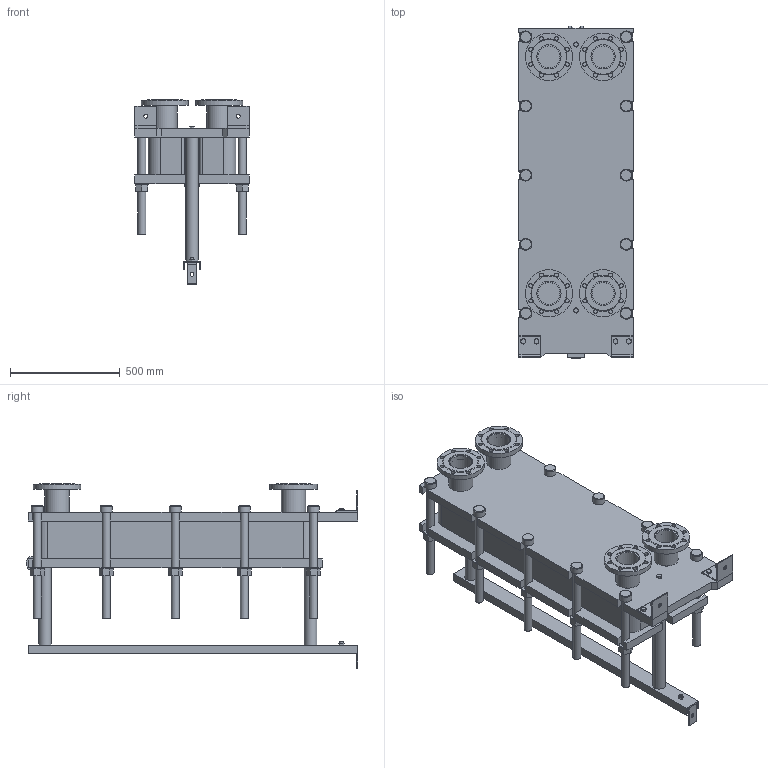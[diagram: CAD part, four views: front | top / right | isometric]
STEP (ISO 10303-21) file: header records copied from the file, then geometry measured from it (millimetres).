
FILE_DESCRIPTION(/* description */ (''),/* implementation_level */ '2;1');
FILE_NAME(/* name */ 'C:\Users\zhuro\Desktop\ENCO\TO\ЭН-04\ЭН-0,5-04-50-1.stp',/* time_stamp */ '2022-06-06T10:48:28+03:00',/* author */ ('zhuro'),/* organization */ (''),/* preprocessor_version */ 'ST-DEVELOPER v18.1',/* originating_system */ 'Autodesk Inventor 2022',/* authorisation */ '');
FILE_SCHEMA (('AUTOMOTIVE_DESIGN { 1 0 10303 214 3 1 1 }'));
Length unit declared in the file: millimetre
Products named in the file (1): ЭН-0,5-04-50-1
Bounding box: 520 x 1510 x 840 mm (x, y, z)
Volume: 154722190.9 mm3; surface area: 7255757.2 mm2
Topology: 45 solids, 45 shells, 668 faces, 1611 edges, 1048 vertices
Faces by surface type: plane 457, cylinder 166, cone 39, torus 6
Full cylindrical faces by diameter (mm): 8 x4, 10 x2, 16 x8, 18 x35, 36 x25, 40 x2, 42 x1, 45 x4, 54 x10, 57 x2, 60 x10, 68 x2, 100 x4, 110 x8, 215 x4
Entity records: 23607 total; most frequent: CARTESIAN_POINT 7348, DIRECTION 3371, ORIENTED_EDGE 3142, EDGE_CURVE 1571, AXIS2_PLACEMENT_3D 1199, VERTEX_POINT 1044, LINE 973, VECTOR 973
